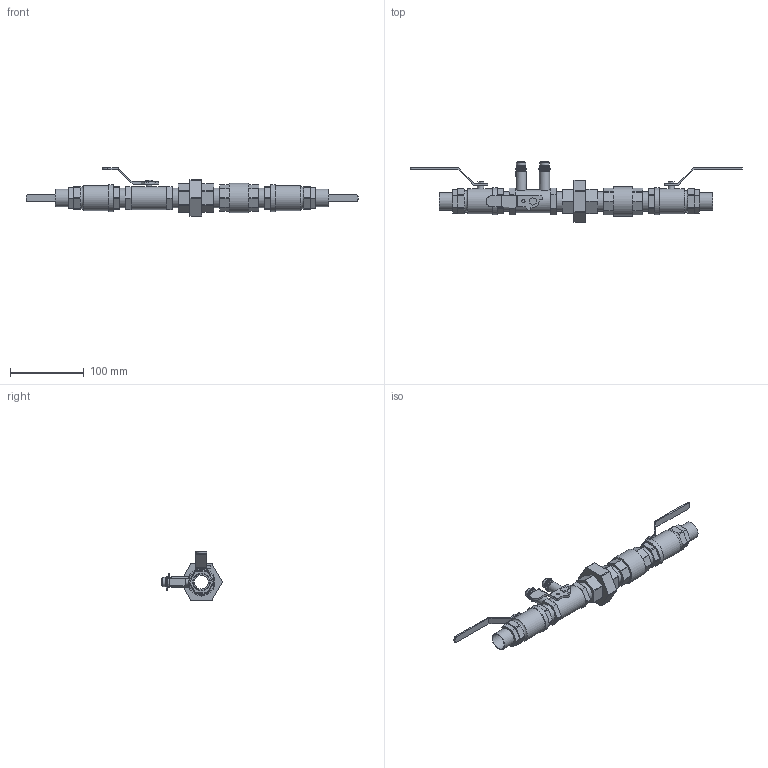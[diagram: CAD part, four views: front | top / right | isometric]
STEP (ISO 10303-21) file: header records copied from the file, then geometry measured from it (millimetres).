
FILE_DESCRIPTION(/* description */ ('VIC DOMESTIC WATER KIT FOR HYDRONIC BALANCING SERIES 7WB (SWT)','CAx-IF Rec.Pracs.---Representation and Presentation of Product Manufacturing Information (PMI)---4.0---2014-10-13'),/* implementation_level */ '2;1');
FILE_NAME(/* name */ 'C:\Users\Vjadhav\AppData\Roaming\Autodesk\ApplicationPlugins\Victaulic.Temp\A168\Victaulic_Domestic Water Kit for Hydronic Balancing_Series 7WB (CPF)_SWT_0.75 (20).stp',/* time_stamp */ '2021-08-10T10:54:53+05:00',/* author */ ('Vjadhav'),/* organization */ ('Victaulic'),/* preprocessor_version */ 'ST-DEVELOPER v17.2',/* originating_system */ 'Autodesk Inventor 2019',/* authorisation */ '');
FILE_SCHEMA (('AP242_MANAGED_MODEL_BASED_3D_ENGINEERING_MIM_LF { 1 0 10303 442 1 1 4 }'));
Length unit declared in the file: inch
Products named in the file (7): 7WB_SWT-0.75; Union_BR_386-0.75; 78BL-0.75; Check_Valve_4133-0.75; Nipple_BR_386_Swt-0.75; 722L_Swt-0.75; Adapter_Sweat_604-0.75
Assembly tree (11 placements, depth 2):
  7WB_SWT-0.75
    Union_BR_386-0.75
    Nipple_BR_386_Swt-0.75  x4
    78BL-0.75
    722L_Swt-0.75  x2
    Check_Valve_4133-0.75
    Adapter_Sweat_604-0.75  x2
Bounding box: 450.85 x 82.52 x 66.29 mm (x, y, z)
Volume: 217940.2 mm3; surface area: 112946.2 mm2
Topology: 13 solids, 13 shells, 438 faces, 1160 edges, 779 vertices
Faces by surface type: plane 315, cylinder 115, cone 6, torus 2
Full cylindrical faces by diameter (mm): 4.318 x1, 4.572 x2, 7.62 x1, 8.763 x2, 12.7 x2, 13.97 x2, 18.847 x2, 20.879 x4, 20.93 x4, 21.59 x1, 22.225 x2, 23.851 x2, 26.67 x16, 31.42 x1, 34.052 x2, 36.83 x2, 39.751 x1
Entity records: 11532 total; most frequent: CARTESIAN_POINT 2075, DIRECTION 1886, ORIENTED_EDGE 1806, EDGE_CURVE 903, AXIS2_PLACEMENT_3D 641, LINE 604, VECTOR 604, VERTEX_POINT 600
